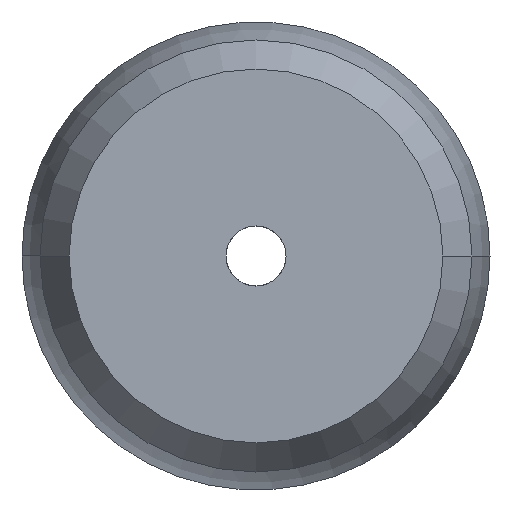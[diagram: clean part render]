
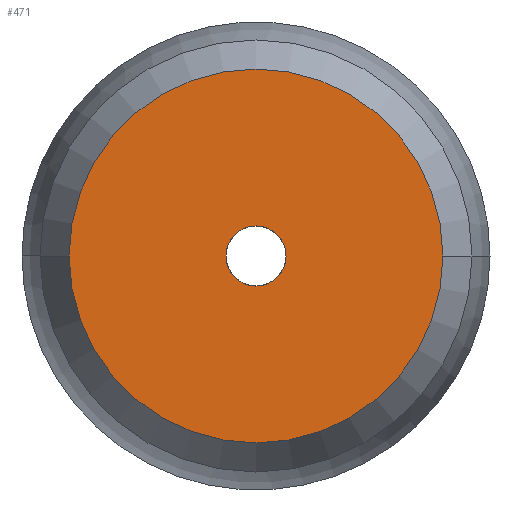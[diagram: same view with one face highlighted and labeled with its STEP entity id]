
A CAD part, front view. The second image highlights one B-rep face of the part: STEP entity #471.
In plain terms, the highlighted planar face has unit normal (0, -1, 0).
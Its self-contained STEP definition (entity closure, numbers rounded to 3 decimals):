
#65 = AXIS2_PLACEMENT_3D ( 'NONE', #680, #500, #693 ) ;
#81 = DIRECTION ( 'NONE',  ( 0., -1., 0. ) ) ;
#157 = EDGE_CURVE ( 'NONE', #725, #293, #1204, .T. ) ;
#293 = VERTEX_POINT ( 'NONE', #762 ) ;
#306 = EDGE_CURVE ( 'NONE', #1829, #713, #409, .T. ) ;
#409 = CIRCLE ( 'NONE', #1092, 1.25 ) ;
#455 = DIRECTION ( 'NONE',  ( 0., -1., 0. ) ) ;
#466 = CIRCLE ( 'NONE', #866, 7.788 ) ;
#471 = ADVANCED_FACE ( 'NONE', ( #631, #999 ), #800, .T. ) ;
#500 = DIRECTION ( 'NONE',  ( 0., -1., 0. ) ) ;
#504 = CARTESIAN_POINT ( 'NONE',  ( 24.875, -14.26, -12.5 ) ) ;
#613 = CARTESIAN_POINT ( 'NONE',  ( 22.375, -14.26, -12.5 ) ) ;
#631 = FACE_OUTER_BOUND ( 'NONE', #644, .T. ) ;
#644 = EDGE_LOOP ( 'NONE', ( #1062, #1757 ) ) ;
#646 = DIRECTION ( 'NONE',  ( 0., -1., 0. ) ) ;
#680 = CARTESIAN_POINT ( 'NONE',  ( 23.625, -14.26, -12.5 ) ) ;
#693 = DIRECTION ( 'NONE',  ( 1., 0., 0. ) ) ;
#713 = VERTEX_POINT ( 'NONE', #613 ) ;
#717 = AXIS2_PLACEMENT_3D ( 'NONE', #504, #1147, #1635 ) ;
#725 = VERTEX_POINT ( 'NONE', #1633 ) ;
#732 = ORIENTED_EDGE ( 'NONE', *, *, #1085, .F. ) ;
#762 = CARTESIAN_POINT ( 'NONE',  ( 31.413, -14.26, -12.5 ) ) ;
#800 = PLANE ( 'NONE',  #717 ) ;
#866 = AXIS2_PLACEMENT_3D ( 'NONE', #1017, #455, #1918 ) ;
#884 = CARTESIAN_POINT ( 'NONE',  ( 24.875, -14.26, -12.5 ) ) ;
#999 = FACE_BOUND ( 'NONE', #1818, .T. ) ;
#1017 = CARTESIAN_POINT ( 'NONE',  ( 23.625, -14.26, -12.5 ) ) ;
#1023 = AXIS2_PLACEMENT_3D ( 'NONE', #1572, #81, #1454 ) ;
#1062 = ORIENTED_EDGE ( 'NONE', *, *, #157, .T. ) ;
#1085 = EDGE_CURVE ( 'NONE', #713, #1829, #1661, .T. ) ;
#1092 = AXIS2_PLACEMENT_3D ( 'NONE', #1299, #646, #1349 ) ;
#1147 = DIRECTION ( 'NONE',  ( 0., -1., 0. ) ) ;
#1204 = CIRCLE ( 'NONE', #1023, 7.788 ) ;
#1299 = CARTESIAN_POINT ( 'NONE',  ( 23.625, -14.26, -12.5 ) ) ;
#1349 = DIRECTION ( 'NONE',  ( 1., 0., 0. ) ) ;
#1454 = DIRECTION ( 'NONE',  ( 1., 0., 0. ) ) ;
#1572 = CARTESIAN_POINT ( 'NONE',  ( 23.625, -14.26, -12.5 ) ) ;
#1633 = CARTESIAN_POINT ( 'NONE',  ( 15.837, -14.26, -12.5 ) ) ;
#1635 = DIRECTION ( 'NONE',  ( 1., 0., 0. ) ) ;
#1661 = CIRCLE ( 'NONE', #65, 1.25 ) ;
#1700 = ORIENTED_EDGE ( 'NONE', *, *, #306, .F. ) ;
#1757 = ORIENTED_EDGE ( 'NONE', *, *, #1807, .T. ) ;
#1807 = EDGE_CURVE ( 'NONE', #293, #725, #466, .T. ) ;
#1818 = EDGE_LOOP ( 'NONE', ( #1700, #732 ) ) ;
#1829 = VERTEX_POINT ( 'NONE', #884 ) ;
#1918 = DIRECTION ( 'NONE',  ( 1., 0., 0. ) ) ;
